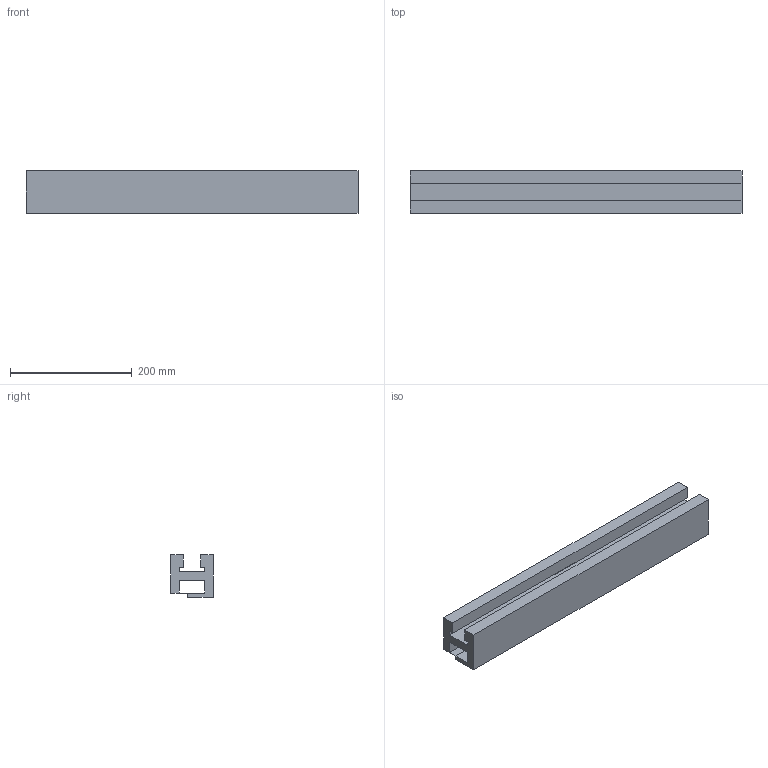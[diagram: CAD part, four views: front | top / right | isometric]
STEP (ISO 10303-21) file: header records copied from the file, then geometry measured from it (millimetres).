
FILE_DESCRIPTION(('Open CASCADE Model'),'2;1');
FILE_NAME('Open CASCADE Shape Model','2026-09-09T00:35:48',('Author'),( 'Open CASCADE'),'Open CASCADE STEP processor 7.7','Open CASCADE 7.7' ,'Unknown');
FILE_SCHEMA(('AUTOMOTIVE_DESIGN { 1 0 10303 214 1 1 1 1 }'));
Length unit declared in the file: millimetre
Products named in the file (1): Open CASCADE STEP translator 7.7 1
Bounding box: 546.29 x 70 x 70 mm (x, y, z)
Volume: 1622841.9 mm3; surface area: 272694.7 mm2
Topology: 1 solids, 1 shells, 20 faces, 54 edges, 36 vertices
Faces by surface type: plane 20
Entity records: 1319 total; most frequent: CARTESIAN_POINT 234, DIRECTION 189, LINE 147, VECTOR 147, ORIENTED_EDGE 108, PCURVE 108, DEFINITIONAL_REPRESENTATION 108, EDGE_CURVE 54
